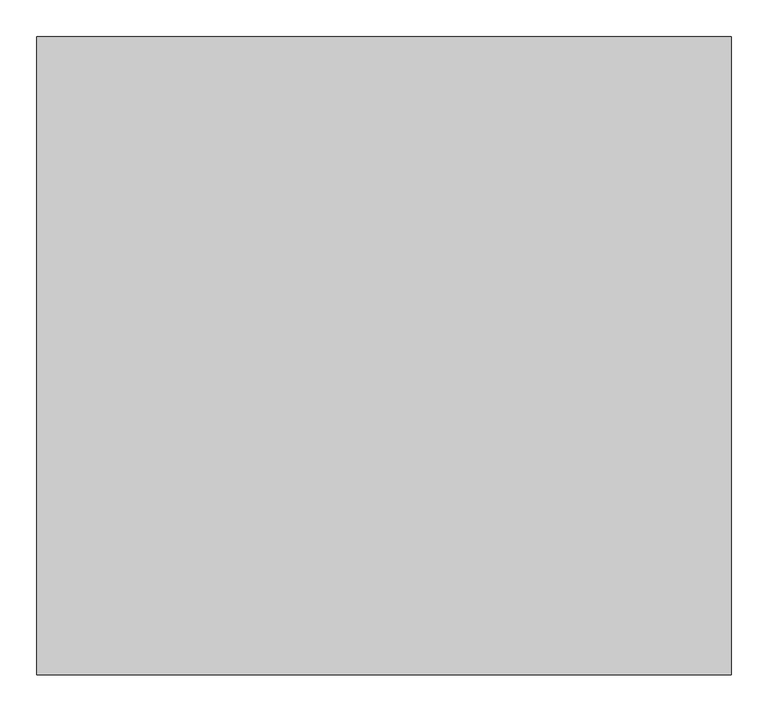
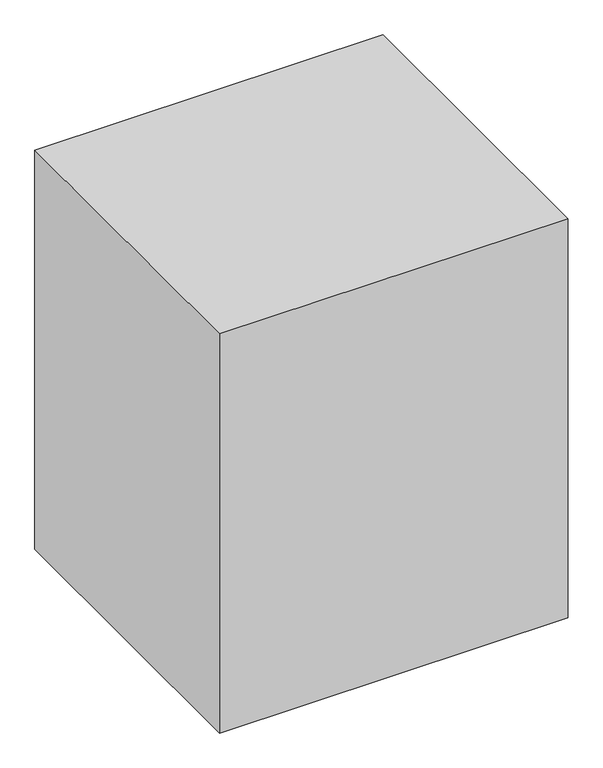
"""IFC4 building model written with IfcOpenShell, lengths in millimetres: proxy geometry, HP - Trane - 4TWR5 : HP - Trane - 4TWR5."""

from ifc_helpers import new_model, si_unit, origin, origin_with_axes, place, context, project, spatial, polyline, outline, extrude, source, transform, mapped, element, save


def mechanical_equipment_48eabea2(model_context):
    return source(origin(), model_context, "Body", "SweptSolid", [
        extrude(outline(polyline([(473.075, 434.975), (473.075, -434.975), (-473.075, -434.975), (-473.075, 434.975), (473.075, 434.975)])), origin_with_axes(), (0.0, 0.0, 1.0), 1146.175),
    ])


if __name__ == "__main__":
    model = new_model("IFC4")
    model_context = context("Model", 3, world=origin())
    ifc_project = project(units=[si_unit("LENGTHUNIT", "METRE", prefix="MILLI")], contexts=[model_context])
    site = spatial("IfcSite", under=ifc_project)
    building = spatial("IfcBuilding", under=site)
    placement = place(None, origin())
    mechanical_equipment_shape = mechanical_equipment_48eabea2(model_context)
    element("IfcBuildingElementProxy", 1, Name="HP - Trane - 4TWR5 : HP - Trane - 4TWR5", ObjectType="HP - Trane - 4TWR5 : HP - Trane - 4TWR5", at=placement, inside=building, context=model_context, shape_type="MappedRepresentation", body=[
        mapped(mechanical_equipment_shape, transform((0.0, 0.0, 0.0), x_axis=(1.0, 0.0, 0.0), y_axis=(0.0, 1.0, 0.0), z_axis=(0.0, 0.0, 1.0))),
    ])
    save(model, "model.ifc")
